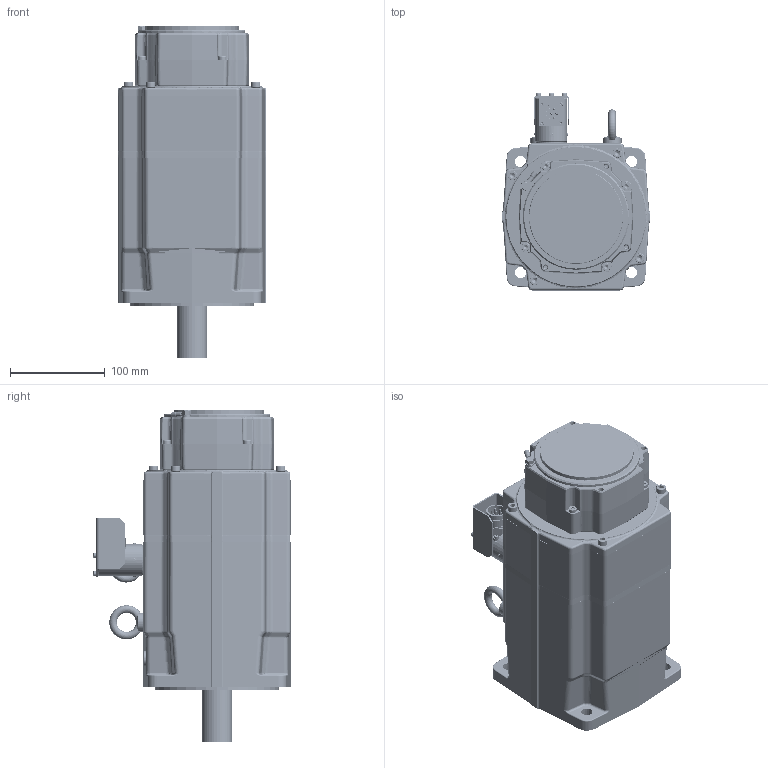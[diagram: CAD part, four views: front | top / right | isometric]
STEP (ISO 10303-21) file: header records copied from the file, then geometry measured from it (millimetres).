
FILE_DESCRIPTION((''),'2;1');
FILE_NAME('EY820EYR7310_ASM','2017-09-29T',('pf73167'),(''),'PRO/ENGINEER BY PARAMETRIC TECHNOLOGY CORPORATION, 2009400','PRO/ENGINEER BY PARAMETRIC TECHNOLOGY CORPORATION, 2009400','');
FILE_SCHEMA(('CONFIG_CONTROL_DESIGN'));
Length unit declared in the file: millimetre
Products named in the file (56): 344458P0008; 5340P0036; 5116P1319; 1150P0512; 301026P0003; 344463P0004; 344232P0001; 344212P0003; 344232P0001_ASM; 220087P0301; 344461R0004_ASM; 5116P1327; 1711P0002; 1640P0001; 344440P0001; 344231P0002; BOB_344465R2000; 344465R2000_ASM; 344466R2000_ASM; SURMOULAGE_344467R2001; 344467R2001_ASM; 5320P0029; 1613P0081; 1613P0082; 1314P0408; 283154_08_P1F101_AF0; 283154_08_P1F501_AF0; 283154P0040_ASM; 1150P0608; 300025P0004; 344455P0001; 344459P0026; 5340P0071; 1150P0625; 344191P0022; 1143P0515; 1190P0001; 6942P0012; 1642P0105; 6620P0014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
Assembly tree (100 placements, depth 5):
  EY820EYR7310_ASM
    344458P0008
    5340P0036  x3
    5116P1319
    1150P0512  x3
    301026P0003
    344461R0004_ASM
      344463P0004
      344232P0001_ASM
        344232P0001
        344212P0003  x2
      220087P0301  x10
    5116P1327
    1711P0002
    1640P0001  x3
    344467R2001_ASM
      344440P0001
      344466R2000_ASM
        344465R2000_ASM
          344231P0002
          BOB_344465R2000
      SURMOULAGE_344467R2001
    5320P0029
    1613P0081  x2
    1613P0082  x2
    1314P0408
    283154P0040_ASM
      283154_08_P1F101_AF0
      283154_08_P1F501_AF0
    1150P0608  x4
    300025P0004
    344455P0001
    344459P0026
    5340P0071
    1150P0625  x4
    344191P0022
    1143P0515  x4
    1190P0001  x2
    6942P0012
    1642P0105
    6620P0014
    1145P0508
    345359R1010_800_ASM
      345359P0002
      5340P0124
      5340P0125
      1150P0204  x8
      345359P0001
      1170P0042  x4
      220132P1010_ASM
        220132P1010_0001
        220132P1010_0002
        220132P0111  x4
        220132P0120  x3
      345359P0003
      1150P0305  x3
Bounding box: 157 x 207.7 x 349.9 mm (x, y, z)
Volume: 3833624.3 mm3; surface area: 1123745.4 mm2
Topology: 98 solids, 121 shells, 5647 faces, 13596 edges, 8301 vertices
Faces by surface type: cylinder 1983, plane 1725, bspline 727, cone 696, torus 440, sphere 66, extrusion 10
Entity records: 160506 total; most frequent: CARTESIAN_POINT 55818, ORIENTED_EDGE 21890, DIRECTION 21482, EDGE_CURVE 10945, AXIS2_PLACEMENT_3D 8321, VERTEX_POINT 6828, EDGE_LOOP 4983, VECTOR 4840
